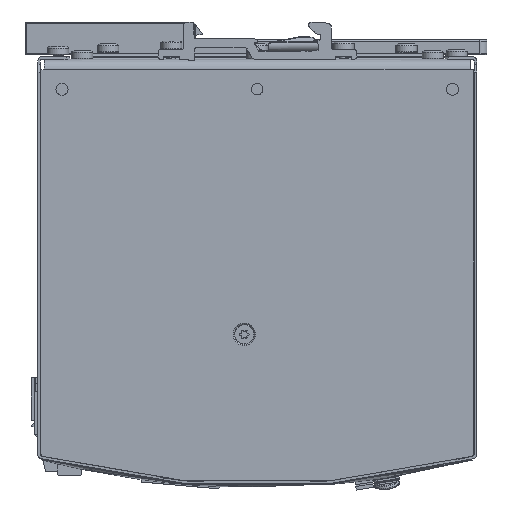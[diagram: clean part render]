
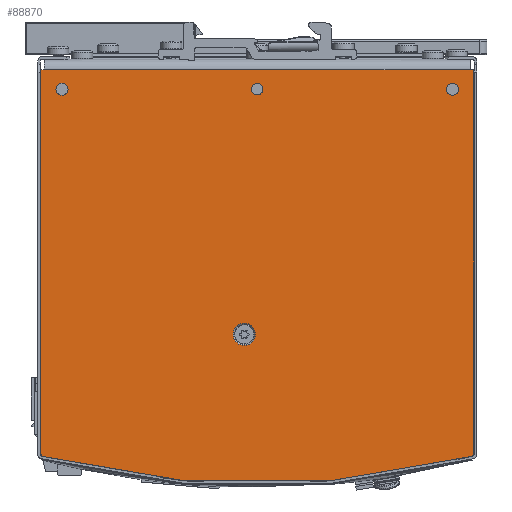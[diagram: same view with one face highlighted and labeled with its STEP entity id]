
A CAD part, front view. The second image highlights one B-rep face of the part: STEP entity #88870.
In plain terms, the highlighted planar face has unit normal (0, -1, 0).
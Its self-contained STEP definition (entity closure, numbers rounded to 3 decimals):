
#1349=CIRCLE('',#94264,3.15);
#1350=CIRCLE('',#94265,3.15);
#1366=CIRCLE('',#94291,1.6);
#1368=CIRCLE('',#94294,1.7);
#1370=CIRCLE('',#94297,1.7);
#1372=CIRCLE('',#94300,1.);
#1375=CIRCLE('',#94304,240.);
#1377=CIRCLE('',#94308,1.);
#2189=FACE_BOUND('',#10355,.T.);
#2190=FACE_BOUND('',#10356,.T.);
#2191=FACE_BOUND('',#10357,.T.);
#2192=FACE_BOUND('',#10358,.T.);
#5733=FACE_OUTER_BOUND('',#10354,.T.);
#10354=EDGE_LOOP('',(#64250,#64251,#64252,#64253,#64254,#64255,#64256,#64257));
#10355=EDGE_LOOP('',(#64258,#64259));
#10356=EDGE_LOOP('',(#64260));
#10357=EDGE_LOOP('',(#64261));
#10358=EDGE_LOOP('',(#64262));
#17150=LINE('',#130316,#28271);
#17158=LINE('',#130336,#28279);
#17169=LINE('',#130364,#28290);
#17218=LINE('',#130524,#28339);
#17219=LINE('',#130526,#28340);
#28271=VECTOR('',#103161,10.);
#28279=VECTOR('',#103177,10.);
#28290=VECTOR('',#103202,10.);
#28339=VECTOR('',#103377,10.);
#28340=VECTOR('',#103380,10.);
#39066=VERTEX_POINT('',#130284);
#39067=VERTEX_POINT('',#130285);
#39072=VERTEX_POINT('',#130300);
#39079=VERTEX_POINT('',#130315);
#39082=VERTEX_POINT('',#130322);
#39087=VERTEX_POINT('',#130334);
#39104=VERTEX_POINT('',#130381);
#39106=VERTEX_POINT('',#130387);
#39108=VERTEX_POINT('',#130393);
#39110=VERTEX_POINT('',#130399);
#39111=VERTEX_POINT('',#130400);
#39115=VERTEX_POINT('',#130410);
#39117=VERTEX_POINT('',#130419);
#48501=EDGE_CURVE('',#39066,#39067,#1349,.T.);
#48502=EDGE_CURVE('',#39067,#39066,#1350,.T.);
#48516=EDGE_CURVE('',#39079,#39072,#17150,.T.);
#48526=EDGE_CURVE('',#39082,#39087,#17158,.T.);
#48541=EDGE_CURVE('',#39072,#39082,#17169,.T.);
#48550=EDGE_CURVE('',#39104,#39104,#1366,.T.);
#48553=EDGE_CURVE('',#39106,#39106,#1368,.T.);
#48556=EDGE_CURVE('',#39108,#39108,#1370,.T.);
#48559=EDGE_CURVE('',#39110,#39111,#1372,.T.);
#48565=EDGE_CURVE('',#39110,#39115,#1375,.T.);
#48570=EDGE_CURVE('',#39117,#39115,#1377,.T.);
#48622=EDGE_CURVE('',#39111,#39087,#17218,.T.);
#48623=EDGE_CURVE('',#39117,#39079,#17219,.T.);
#64250=ORIENTED_EDGE('',*,*,#48559,.F.);
#64251=ORIENTED_EDGE('',*,*,#48565,.T.);
#64252=ORIENTED_EDGE('',*,*,#48570,.F.);
#64253=ORIENTED_EDGE('',*,*,#48623,.T.);
#64254=ORIENTED_EDGE('',*,*,#48516,.T.);
#64255=ORIENTED_EDGE('',*,*,#48541,.T.);
#64256=ORIENTED_EDGE('',*,*,#48526,.T.);
#64257=ORIENTED_EDGE('',*,*,#48622,.F.);
#64258=ORIENTED_EDGE('',*,*,#48501,.T.);
#64259=ORIENTED_EDGE('',*,*,#48502,.T.);
#64260=ORIENTED_EDGE('',*,*,#48550,.T.);
#64261=ORIENTED_EDGE('',*,*,#48553,.T.);
#64262=ORIENTED_EDGE('',*,*,#48556,.T.);
#84838=PLANE('',#94349);
#88870=ADVANCED_FACE('',(#5733,#2189,#2190,#2191,#2192),#84838,.T.);
#94264=AXIS2_PLACEMENT_3D('',#130286,#103132,#103133);
#94265=AXIS2_PLACEMENT_3D('',#130287,#103134,#103135);
#94291=AXIS2_PLACEMENT_3D('',#130382,#103218,#103219);
#94294=AXIS2_PLACEMENT_3D('',#130388,#103225,#103226);
#94297=AXIS2_PLACEMENT_3D('',#130394,#103232,#103233);
#94300=AXIS2_PLACEMENT_3D('',#130401,#103239,#103240);
#94304=AXIS2_PLACEMENT_3D('',#130412,#103250,#103251);
#94308=AXIS2_PLACEMENT_3D('',#130421,#103261,#103262);
#94349=AXIS2_PLACEMENT_3D('',#130525,#103378,#103379);
#103132=DIRECTION('center_axis',(0.,1.,0.));
#103133=DIRECTION('ref_axis',(1.,0.,0.));
#103134=DIRECTION('center_axis',(0.,1.,0.));
#103135=DIRECTION('ref_axis',(1.,0.,0.));
#103161=DIRECTION('',(0.,0.,-1.));
#103177=DIRECTION('',(0.,0.,-1.));
#103202=DIRECTION('',(0.,0.,-1.));
#103218=DIRECTION('center_axis',(0.,1.,0.));
#103219=DIRECTION('ref_axis',(-1.,0.,0.));
#103225=DIRECTION('center_axis',(0.,1.,0.));
#103226=DIRECTION('ref_axis',(-1.,0.,0.));
#103232=DIRECTION('center_axis',(0.,1.,0.));
#103233=DIRECTION('ref_axis',(-1.,0.,0.));
#103239=DIRECTION('center_axis',(0.,1.,0.));
#103240=DIRECTION('ref_axis',(0.612,0.,-0.791));
#103250=DIRECTION('center_axis',(0.,-1.,0.));
#103251=DIRECTION('ref_axis',(0.967,0.,0.255));
#103261=DIRECTION('center_axis',(0.,1.,0.));
#103262=DIRECTION('ref_axis',(0.612,0.,0.791));
#103377=DIRECTION('',(-1.,0.,0.));
#103378=DIRECTION('center_axis',(0.,-1.,0.));
#103379=DIRECTION('ref_axis',(0.,0.,-1.));
#103380=DIRECTION('',(-1.,0.,0.));
#130284=CARTESIAN_POINT('',(80.89,-25.,-3.65));
#130285=CARTESIAN_POINT('',(74.59,-25.,-3.65));
#130286=CARTESIAN_POINT('Origin',(77.74,-25.,-3.65));
#130287=CARTESIAN_POINT('Origin',(77.74,-25.,-3.65));
#130300=CARTESIAN_POINT('',(3.,-25.,60.15));
#130315=CARTESIAN_POINT('',(3.,-25.,61.15));
#130316=CARTESIAN_POINT('',(3.,-25.,-61.15));
#130322=CARTESIAN_POINT('',(3.,-25.,-60.15));
#130334=CARTESIAN_POINT('',(3.,-25.,-61.15));
#130336=CARTESIAN_POINT('',(3.,-25.,-61.15));
#130364=CARTESIAN_POINT('',(3.,-25.,-61.15));
#130381=CARTESIAN_POINT('',(10.1,-25.,0.));
#130382=CARTESIAN_POINT('Origin',(8.5,-25.,0.));
#130387=CARTESIAN_POINT('',(10.2,-25.,55.15));
#130388=CARTESIAN_POINT('Origin',(8.5,-25.,55.15));
#130393=CARTESIAN_POINT('',(10.2,-25.,-55.15));
#130394=CARTESIAN_POINT('Origin',(8.5,-25.,-55.15));
#130399=CARTESIAN_POINT('',(112.275,-25.,-60.402));
#130400=CARTESIAN_POINT('',(111.307,-25.,-61.15));
#130401=CARTESIAN_POINT('Origin',(111.307,-25.,-60.15));
#130410=CARTESIAN_POINT('',(112.275,-25.,60.402));
#130412=CARTESIAN_POINT('Origin',(-120.,-25.,0.));
#130419=CARTESIAN_POINT('',(111.307,-25.,61.15));
#130421=CARTESIAN_POINT('Origin',(111.307,-25.,60.15));
#130524=CARTESIAN_POINT('',(130.,-25.,-61.15));
#130525=CARTESIAN_POINT('Origin',(130.,-25.,-61.15));
#130526=CARTESIAN_POINT('',(130.,-25.,61.15));
